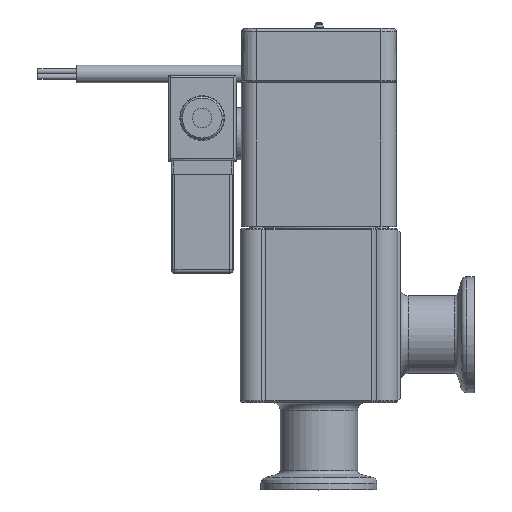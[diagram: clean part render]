
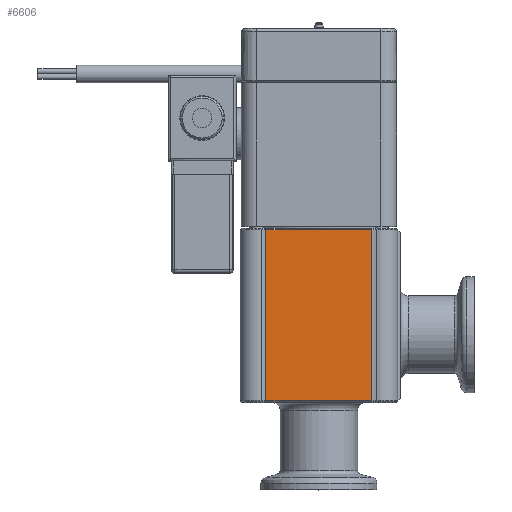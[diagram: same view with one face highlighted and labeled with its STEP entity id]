
A CAD part, top view. The second image highlights one B-rep face of the part: STEP entity #6606.
In plain terms, the highlighted planar face has unit normal (0, 0, 1).
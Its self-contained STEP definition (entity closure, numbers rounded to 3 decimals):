
#3697=FACE_OUTER_BOUND('',#8506,.T.);
#4230=LINE('',#21929,#5236);
#4231=LINE('',#21932,#5237);
#4232=LINE('',#21934,#5238);
#4233=LINE('',#21936,#5239);
#5236=VECTOR('',#17936,1.);
#5237=VECTOR('',#17937,1.);
#5238=VECTOR('',#17938,1.);
#5239=VECTOR('',#17939,1.);
#6606=ADVANCED_FACE('98-0-65',(#3697),#7280,.T.);
#7280=PLANE('',#16275);
#8506=EDGE_LOOP('',(#9721,#9722,#9723,#9724));
#9721=ORIENTED_EDGE('',*,*,#14017,.T.);
#9722=ORIENTED_EDGE('',*,*,#14018,.T.);
#9723=ORIENTED_EDGE('',*,*,#14019,.T.);
#9724=ORIENTED_EDGE('',*,*,#14020,.T.);
#12809=VERTEX_POINT('',#21930);
#12810=VERTEX_POINT('',#21931);
#12811=VERTEX_POINT('',#21933);
#12812=VERTEX_POINT('',#21935);
#14017=EDGE_CURVE('',#12809,#12810,#4230,.T.);
#14018=EDGE_CURVE('',#12810,#12811,#4231,.T.);
#14019=EDGE_CURVE('',#12811,#12812,#4232,.T.);
#14020=EDGE_CURVE('',#12812,#12809,#4233,.T.);
#16275=AXIS2_PLACEMENT_3D('',#21937,#17940,#17941);
#17936=DIRECTION('',(0.,-1.,0.));
#17937=DIRECTION('',(1.,0.,0.));
#17938=DIRECTION('',(0.,1.,0.));
#17939=DIRECTION('',(-1.,0.,0.));
#17940=DIRECTION('',(0.,0.,1.));
#17941=DIRECTION('',(1.,0.,0.));
#21929=CARTESIAN_POINT('',(-13.657,19.5,20.));
#21930=CARTESIAN_POINT('',(-13.657,64.,20.));
#21931=CARTESIAN_POINT('',(-13.657,19.9,20.));
#21932=CARTESIAN_POINT('',(13.657,19.9,20.));
#21933=CARTESIAN_POINT('',(13.657,19.9,20.));
#21934=CARTESIAN_POINT('',(13.657,64.4,20.));
#21935=CARTESIAN_POINT('',(13.657,64.,20.));
#21936=CARTESIAN_POINT('',(-13.657,64.,20.));
#21937=CARTESIAN_POINT('',(-14.422,18.5,20.));
